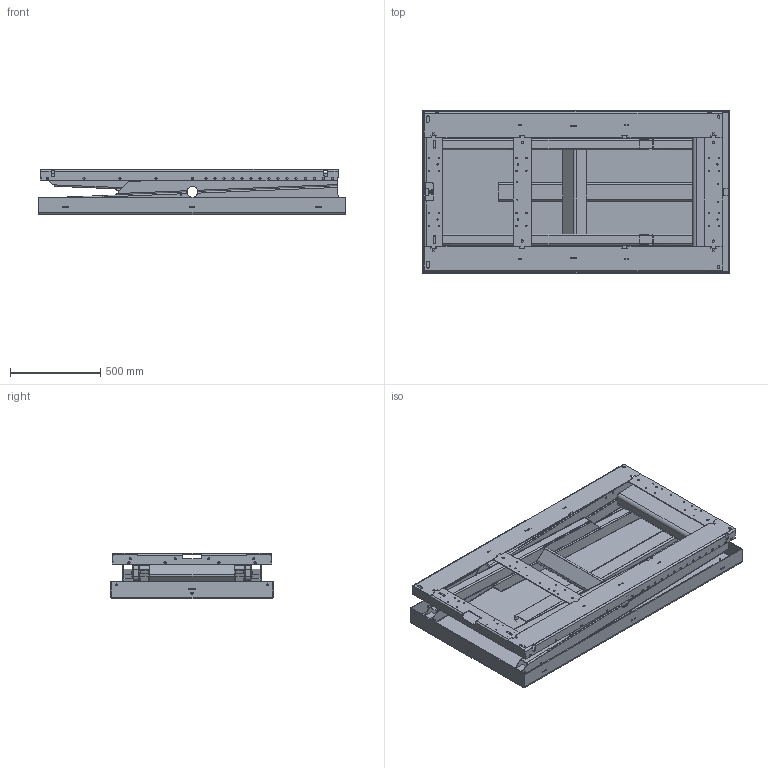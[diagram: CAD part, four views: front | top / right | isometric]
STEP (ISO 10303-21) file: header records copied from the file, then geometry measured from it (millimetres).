
FILE_DESCRIPTION(/* description */ ('Långsida'),/* implementation_level */ '2;1');
FILE_NAME(/* name */ '\\EDMOFILE01\Users$\JOHSO\Desktop\STP\t\33180_Closed-Height.stp',/* time_stamp */ '2016-08-11T13:55:44+02:00',/* author */ ('LEIJO'),/* organization */ (''),/* preprocessor_version */ 'ST-DEVELOPER v15.6',/* originating_system */ 'Autodesk Inventor 2015',/* authorisation */ '');
FILE_SCHEMA (('AUTOMOTIVE_DESIGN { 1 0 10303 214 3 1 1 }'));
Length unit declared in the file: millimetre
Products named in the file (26): X35871-1; X35871-4; 35871-3; 35871-2; 45259; 44870; X35872; 33184-1; 33184-2; 33184; Copy of ISO 4019 - 100x100x5 - 468; 33182; 33185-1; 33185-2; 33185; Copy of ISO 4019 - 160x80x8 - 650; 33183; 33142-1; 43239; 45387; 80131; 85955; 41333-1175; 33181; 42509; 33180_TEMP
Assembly tree (46 placements, depth 4):
  33180_TEMP
    X35872
      X35871-1
      X35871-4
      35871-3
      35871-2  x2
      45259  x2
      44870  x2
    33182
      33184  x2
        33184-1
        33184-2
      Copy of ISO 4019 - 100x100x5 - 468
    33183
      33185  x2
        33185-1
        33185-2
      Copy of ISO 4019 - 160x80x8 - 650
    33181
      33142-1
      43239  x2
      45259  x2
      45387  x8
      80131  x6
      85955
      41333-1175
    42509  x2
Bounding box: 1700 x 900 x 250 mm (x, y, z)
Volume: 30694792.8 mm3; surface area: 12306848.9 mm2
Topology: 42 solids, 42 shells, 1738 faces, 4916 edges, 3254 vertices
Faces by surface type: cylinder 882, plane 780, cone 62, bspline 8, torus 6
Full cylindrical faces by diameter (mm): 5.55 x4, 7.4 x38, 8 x6, 10 x4, 10.481 x4, 10.5 x4, 11.63 x6, 12.5 x2, 13 x4, 13.835 x5, 14.2 x16, 15 x2, 18.8 x2, 19 x1, 22 x2, 28.1 x4
Entity records: 42354 total; most frequent: CARTESIAN_POINT 8901, DIRECTION 7072, ORIENTED_EDGE 6714, EDGE_CURVE 3357, AXIS2_PLACEMENT_3D 2550, VERTEX_POINT 2267, LINE 1972, VECTOR 1972
